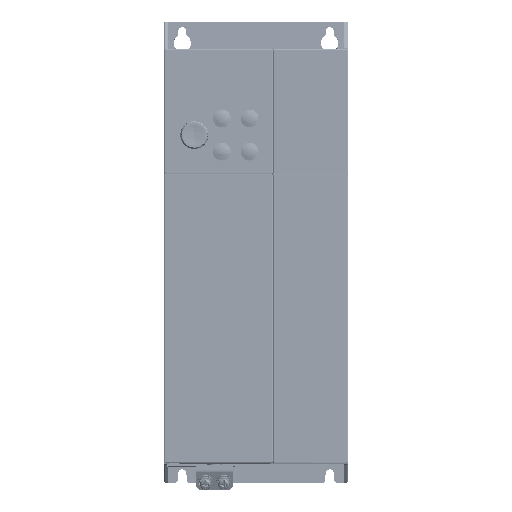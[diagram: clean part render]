
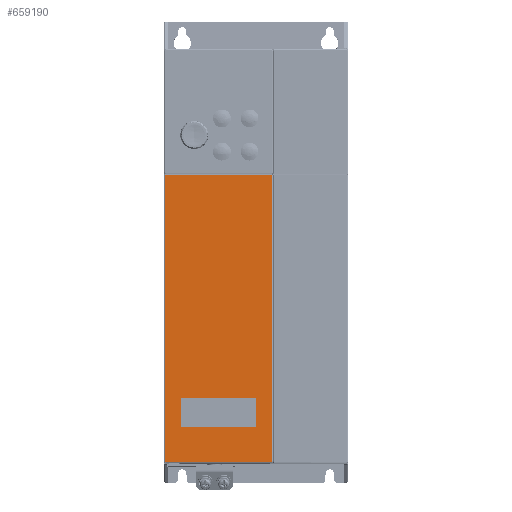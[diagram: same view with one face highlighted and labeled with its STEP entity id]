
A CAD part, top view. The second image highlights one B-rep face of the part: STEP entity #659190.
In plain terms, the highlighted planar face has unit normal (0, 0, 1).
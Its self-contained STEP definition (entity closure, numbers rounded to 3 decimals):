
#652679=DIRECTION('',(0.,1.,0.));
#652680=VECTOR('',#652679,15.262);
#652681=CARTESIAN_POINT('',(50.031,-204.881,0.));
#652682=LINE('',#652681,#652680);
#652686=DIRECTION('',(-1.,0.,0.));
#652687=VECTOR('',#652686,40.262);
#652688=CARTESIAN_POINT('',(49.881,-189.469,0.));
#652689=LINE('',#652688,#652687);
#652693=DIRECTION('',(0.,-1.,0.));
#652694=VECTOR('',#652693,15.262);
#652695=CARTESIAN_POINT('',(9.469,-189.619,0.));
#652696=LINE('',#652695,#652694);
#652700=DIRECTION('',(1.,0.,0.));
#652701=VECTOR('',#652700,40.262);
#652702=CARTESIAN_POINT('',(9.619,-205.031,0.));
#652703=LINE('',#652702,#652701);
#652707=DIRECTION('',(1.,0.,0.));
#652708=VECTOR('',#652707,58.215);
#652709=CARTESIAN_POINT('',(0.6,-68.5,0.));
#652710=LINE('',#652709,#652708);
#652714=DIRECTION('',(0.,1.,0.));
#652715=VECTOR('',#652714,155.162);
#652716=CARTESIAN_POINT('',(58.815,-223.662,0.));
#652717=LINE('',#652716,#652715);
#652721=CARTESIAN_POINT('',(58.415,-224.061,0.));
#652722=CARTESIAN_POINT('',(58.459,-224.061,0.));
#652723=CARTESIAN_POINT('',(58.542,-224.047,0.));
#652724=CARTESIAN_POINT('',(58.654,-223.99,0.));
#652725=CARTESIAN_POINT('',(58.741,-223.905,0.));
#652726=CARTESIAN_POINT('',(58.8,-223.793,0.));
#652727=CARTESIAN_POINT('',(58.815,-223.708,0.));
#652728=CARTESIAN_POINT('',(58.815,-223.662,0.));
#652733=DIRECTION('',(1.,0.,0.));
#652734=VECTOR('',#652733,57.415);
#652735=CARTESIAN_POINT('',(1.,-224.061,0.));
#652736=LINE('',#652735,#652734);
#652740=CARTESIAN_POINT('',(0.6,-223.661,0.));
#652741=CARTESIAN_POINT('',(0.6,-223.69,0.));
#652742=CARTESIAN_POINT('',(0.606,-223.743,0.));
#652743=CARTESIAN_POINT('',(0.628,-223.813,0.));
#652744=CARTESIAN_POINT('',(0.658,-223.872,0.));
#652745=CARTESIAN_POINT('',(0.693,-223.92,0.));
#652746=CARTESIAN_POINT('',(0.731,-223.958,0.));
#652747=CARTESIAN_POINT('',(0.769,-223.989,0.));
#652748=CARTESIAN_POINT('',(0.808,-224.013,0.));
#652749=CARTESIAN_POINT('',(0.849,-224.033,0.));
#652750=CARTESIAN_POINT('',(0.893,-224.048,0.));
#652751=CARTESIAN_POINT('',(0.943,-224.058,0.));
#652752=CARTESIAN_POINT('',(0.98,-224.061,0.));
#652753=CARTESIAN_POINT('',(1.,-224.061,0.));
#652758=DIRECTION('',(0.,-1.,0.));
#652759=VECTOR('',#652758,155.161);
#652760=CARTESIAN_POINT('',(0.6,-68.5,0.));
#652761=LINE('',#652760,#652759);
#652779=CARTESIAN_POINT('',(49.881,-189.469,0.));
#652780=CARTESIAN_POINT('',(49.981,-189.469,0.));
#652781=CARTESIAN_POINT('',(50.031,-189.519,0.));
#652782=CARTESIAN_POINT('',(50.031,-189.619,0.));
#652847=CARTESIAN_POINT('',(9.469,-189.619,0.));
#652848=CARTESIAN_POINT('',(9.469,-189.519,0.));
#652849=CARTESIAN_POINT('',(9.519,-189.469,0.));
#652850=CARTESIAN_POINT('',(9.619,-189.469,0.));
#652869=CARTESIAN_POINT('',(9.619,-205.031,0.));
#652870=CARTESIAN_POINT('',(9.519,-205.031,0.));
#652871=CARTESIAN_POINT('',(9.469,-204.981,0.));
#652872=CARTESIAN_POINT('',(9.469,-204.881,0.));
#652891=CARTESIAN_POINT('',(50.031,-204.881,0.));
#652892=CARTESIAN_POINT('',(50.031,-204.981,0.));
#652893=CARTESIAN_POINT('',(49.981,-205.031,0.));
#652894=CARTESIAN_POINT('',(49.881,-205.031,0.));
#658360=CARTESIAN_POINT('',(0.6,-223.661,0.));
#658362=VERTEX_POINT('',#658360);
#658517=VERTEX_POINT('',#652721);
#658518=VERTEX_POINT('',#652728);
#658521=CARTESIAN_POINT('',(1.,-224.061,0.));
#658522=VERTEX_POINT('',#658521);
#658619=CARTESIAN_POINT('',(9.469,-189.619,0.));
#658620=VERTEX_POINT('',#658619);
#658621=CARTESIAN_POINT('',(9.619,-189.469,0.));
#658622=VERTEX_POINT('',#658621);
#658625=CARTESIAN_POINT('',(49.881,-189.469,0.));
#658626=VERTEX_POINT('',#658625);
#658627=CARTESIAN_POINT('',(50.031,-189.619,0.));
#658628=VERTEX_POINT('',#658627);
#658631=CARTESIAN_POINT('',(50.031,-204.881,0.));
#658632=VERTEX_POINT('',#658631);
#658633=CARTESIAN_POINT('',(49.881,-205.031,0.));
#658634=VERTEX_POINT('',#658633);
#658637=CARTESIAN_POINT('',(9.619,-205.031,0.));
#658638=VERTEX_POINT('',#658637);
#658639=CARTESIAN_POINT('',(9.469,-204.881,0.));
#658640=VERTEX_POINT('',#658639);
#659043=CARTESIAN_POINT('',(0.6,-68.5,0.));
#659044=CARTESIAN_POINT('',(58.815,-68.5,0.));
#659045=VERTEX_POINT('',#659043);
#659046=VERTEX_POINT('',#659044);
#659153=CARTESIAN_POINT('',(0.,0.,0.));
#659154=DIRECTION('',(0.,0.,1.));
#659155=DIRECTION('',(1.,0.,0.));
#659156=AXIS2_PLACEMENT_3D('',#659153,#659154,#659155);
#659157=PLANE('',#659156);
#659159=ORIENTED_EDGE('',*,*,#659158,.T.);
#659161=ORIENTED_EDGE('',*,*,#659160,.F.);
#659163=ORIENTED_EDGE('',*,*,#659162,.F.);
#659165=ORIENTED_EDGE('',*,*,#659164,.F.);
#659167=ORIENTED_EDGE('',*,*,#659166,.F.);
#659169=ORIENTED_EDGE('',*,*,#659168,.F.);
#659170=EDGE_LOOP('',(#659159,#659161,#659163,#659165,#659167,#659169));
#659171=FACE_OUTER_BOUND('',#659170,.F.);
#659173=ORIENTED_EDGE('',*,*,#659172,.T.);
#659175=ORIENTED_EDGE('',*,*,#659174,.F.);
#659177=ORIENTED_EDGE('',*,*,#659176,.T.);
#659179=ORIENTED_EDGE('',*,*,#659178,.F.);
#659181=ORIENTED_EDGE('',*,*,#659180,.T.);
#659183=ORIENTED_EDGE('',*,*,#659182,.F.);
#659185=ORIENTED_EDGE('',*,*,#659184,.T.);
#659187=ORIENTED_EDGE('',*,*,#659186,.F.);
#659188=EDGE_LOOP('',(#659173,#659175,#659177,#659179,#659181,#659183,#659185,
#659187));
#659189=FACE_BOUND('',#659188,.F.);
#659190=ADVANCED_FACE('',(#659171,#659189),#659157,.T.);
#652729=B_SPLINE_CURVE_WITH_KNOTS('',3,(#652721,#652722,#652723,#652724,#652725,
#652726,#652727,#652728),.UNSPECIFIED.,.F.,.F.,(4,1,1,1,1,4),(0.,0.2,0.4,
0.6,0.8,1.),.UNSPECIFIED.);
#652754=B_SPLINE_CURVE_WITH_KNOTS('',3,(#652740,#652741,#652742,#652743,#652744,
#652745,#652746,#652747,#652748,#652749,#652750,#652751,#652752,#652753),
.UNSPECIFIED.,.F.,.F.,(4,1,1,1,1,1,1,1,1,1,1,4),(0.,0.091,
0.182,0.273,0.364,0.455,
0.545,0.636,0.727,0.818,
0.909,1.),.UNSPECIFIED.);
#652783=B_SPLINE_CURVE_WITH_KNOTS('',3,(#652779,#652780,#652781,#652782),
.UNSPECIFIED.,.F.,.F.,(4,4),(0.,1.),.UNSPECIFIED.);
#652851=B_SPLINE_CURVE_WITH_KNOTS('',3,(#652847,#652848,#652849,#652850),
.UNSPECIFIED.,.F.,.F.,(4,4),(0.,1.),.UNSPECIFIED.);
#652873=B_SPLINE_CURVE_WITH_KNOTS('',3,(#652869,#652870,#652871,#652872),
.UNSPECIFIED.,.F.,.F.,(4,4),(0.,1.),.UNSPECIFIED.);
#652895=B_SPLINE_CURVE_WITH_KNOTS('',3,(#652891,#652892,#652893,#652894),
.UNSPECIFIED.,.F.,.F.,(4,4),(0.,1.),.UNSPECIFIED.);
#659158=EDGE_CURVE('',#659045,#659046,#652710,.T.);
#659160=EDGE_CURVE('',#658518,#659046,#652717,.T.);
#659162=EDGE_CURVE('',#658517,#658518,#652729,.T.);
#659164=EDGE_CURVE('',#658522,#658517,#652736,.T.);
#659166=EDGE_CURVE('',#658362,#658522,#652754,.T.);
#659168=EDGE_CURVE('',#659045,#658362,#652761,.T.);
#659172=EDGE_CURVE('',#658632,#658628,#652682,.T.);
#659174=EDGE_CURVE('',#658626,#658628,#652783,.T.);
#659176=EDGE_CURVE('',#658626,#658622,#652689,.T.);
#659178=EDGE_CURVE('',#658620,#658622,#652851,.T.);
#659180=EDGE_CURVE('',#658620,#658640,#652696,.T.);
#659182=EDGE_CURVE('',#658638,#658640,#652873,.T.);
#659184=EDGE_CURVE('',#658638,#658634,#652703,.T.);
#659186=EDGE_CURVE('',#658632,#658634,#652895,.T.);
